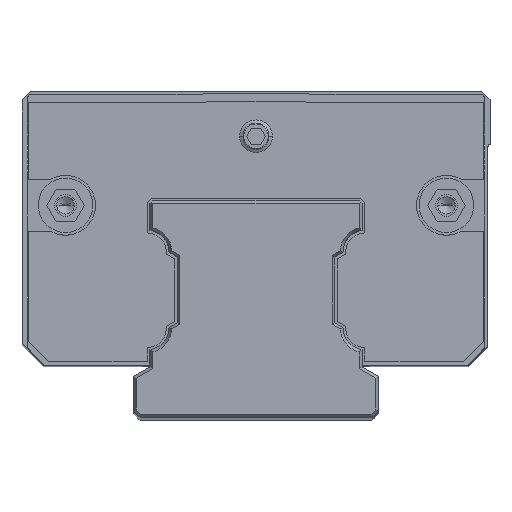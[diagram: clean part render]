
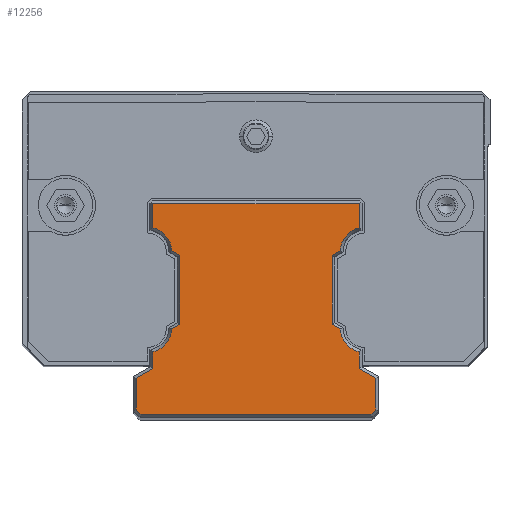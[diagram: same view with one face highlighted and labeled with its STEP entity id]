
A CAD part, top view. The second image highlights one B-rep face of the part: STEP entity #12256.
In plain terms, the highlighted planar face has unit normal (0, 0, 1).
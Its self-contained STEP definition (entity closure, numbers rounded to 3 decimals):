
#11570=DIRECTION('',(-1.,0.,0.));
#11571=VECTOR('',#11570,38.);
#11572=CARTESIAN_POINT('',(19.,15.85,132.05));
#11573=LINE('',#11572,#11571);
#11574=DIRECTION('',(0.,1.,0.));
#11575=VECTOR('',#11574,4.449);
#11576=CARTESIAN_POINT('',(19.,11.401,132.05));
#11577=LINE('',#11576,#11575);
#11578=DIRECTION('',(0.866,0.5,0.));
#11579=VECTOR('',#11578,1.712);
#11580=CARTESIAN_POINT('',(14.,6.339,132.05));
#11581=LINE('',#11580,#11579);
#11582=DIRECTION('',(0.,1.,0.));
#11583=VECTOR('',#11582,12.677);
#11584=CARTESIAN_POINT('',(14.,-6.339,132.05));
#11585=LINE('',#11584,#11583);
#11586=DIRECTION('',(-0.866,0.5,0.));
#11587=VECTOR('',#11586,1.712);
#11588=CARTESIAN_POINT('',(15.483,-7.195,
132.05));
#11589=LINE('',#11588,#11587);
#11590=DIRECTION('',(0.,1.,0.));
#11591=VECTOR('',#11590,3.088);
#11592=CARTESIAN_POINT('',(19.,-14.489,132.05));
#11593=LINE('',#11592,#11591);
#11594=DIRECTION('',(-0.866,0.5,0.));
#11595=VECTOR('',#11594,3.464);
#11596=CARTESIAN_POINT('',(22.,-16.221,132.05));
#11597=LINE('',#11596,#11595);
#11598=DIRECTION('',(0.,1.,0.));
#11599=VECTOR('',#11598,5.872);
#11600=CARTESIAN_POINT('',(22.,-22.093,132.05));
#11601=LINE('',#11600,#11599);
#11602=DIRECTION('',(0.707,0.707,0.));
#11603=VECTOR('',#11602,1.283);
#11604=CARTESIAN_POINT('',(21.093,-23.,132.05));
#11605=LINE('',#11604,#11603);
#11606=DIRECTION('',(1.,0.,0.));
#11607=VECTOR('',#11606,42.186);
#11608=CARTESIAN_POINT('',(-21.093,-23.,132.05));
#11609=LINE('',#11608,#11607);
#11610=DIRECTION('',(0.707,-0.707,0.));
#11611=VECTOR('',#11610,1.283);
#11612=CARTESIAN_POINT('',(-22.,-22.093,132.05));
#11613=LINE('',#11612,#11611);
#11614=DIRECTION('',(0.,-1.,0.));
#11615=VECTOR('',#11614,5.872);
#11616=CARTESIAN_POINT('',(-22.,-16.221,132.05));
#11617=LINE('',#11616,#11615);
#11618=DIRECTION('',(-0.866,-0.5,0.));
#11619=VECTOR('',#11618,3.464);
#11620=CARTESIAN_POINT('',(-19.,-14.489,132.05));
#11621=LINE('',#11620,#11619);
#11622=DIRECTION('',(0.,-1.,0.));
#11623=VECTOR('',#11622,3.088);
#11624=CARTESIAN_POINT('',(-19.,-11.401,
132.05));
#11625=LINE('',#11624,#11623);
#11626=DIRECTION('',(-0.866,-0.5,0.));
#11627=VECTOR('',#11626,1.712);
#11628=CARTESIAN_POINT('',(-14.,-6.339,132.05));
#11629=LINE('',#11628,#11627);
#11630=DIRECTION('',(0.,-1.,0.));
#11631=VECTOR('',#11630,12.677);
#11632=CARTESIAN_POINT('',(-14.,6.339,132.05));
#11633=LINE('',#11632,#11631);
#11634=DIRECTION('',(0.866,-0.5,0.));
#11635=VECTOR('',#11634,1.712);
#11636=CARTESIAN_POINT('',(-15.483,7.195,
132.05));
#11637=LINE('',#11636,#11635);
#11638=DIRECTION('',(0.,-1.,0.));
#11639=VECTOR('',#11638,4.449);
#11640=CARTESIAN_POINT('',(-19.,15.85,132.05));
#11641=LINE('',#11640,#11639);
#11669=CARTESIAN_POINT('',(-20.056,6.944,132.05));
#11670=DIRECTION('',(0.,0.,-1.));
#11671=DIRECTION('',(0.231,0.973,0.));
#11672=AXIS2_PLACEMENT_3D('',#11669,#11670,#11671);
#11729=CARTESIAN_POINT('',(-20.056,-6.944,132.05));
#11730=DIRECTION('',(0.,0.,-1.));
#11731=DIRECTION('',(0.998,-0.055,0.));
#11732=AXIS2_PLACEMENT_3D('',#11729,#11730,#11731);
#11861=CARTESIAN_POINT('',(20.056,-6.944,132.05));
#11862=DIRECTION('',(0.,0.,-1.));
#11863=DIRECTION('',(-0.231,-0.973,0.));
#11864=AXIS2_PLACEMENT_3D('',#11861,#11862,#11863);
#11926=CARTESIAN_POINT('',(20.056,6.944,132.05));
#11927=DIRECTION('',(0.,0.,-1.));
#11928=DIRECTION('',(-0.998,0.055,0.));
#11929=AXIS2_PLACEMENT_3D('',#11926,#11927,#11928);
#12018=CARTESIAN_POINT('',(19.,15.85,132.05));
#12019=CARTESIAN_POINT('',(-19.,15.85,132.05));
#12020=VERTEX_POINT('',#12018);
#12021=VERTEX_POINT('',#12019);
#12026=CARTESIAN_POINT('',(19.,11.401,132.05));
#12027=VERTEX_POINT('',#12026);
#12032=CARTESIAN_POINT('',(14.,6.339,132.05));
#12033=CARTESIAN_POINT('',(15.483,7.195,132.05));
#12034=VERTEX_POINT('',#12032);
#12035=VERTEX_POINT('',#12033);
#12038=CARTESIAN_POINT('',(14.,-6.339,132.05));
#12039=VERTEX_POINT('',#12038);
#12040=CARTESIAN_POINT('',(15.483,-7.195,
132.05));
#12041=VERTEX_POINT('',#12040);
#12048=CARTESIAN_POINT('',(19.,-14.489,132.05));
#12049=CARTESIAN_POINT('',(19.,-11.401,
132.05));
#12050=VERTEX_POINT('',#12048);
#12051=VERTEX_POINT('',#12049);
#12054=CARTESIAN_POINT('',(22.,-16.221,132.05));
#12055=VERTEX_POINT('',#12054);
#12058=CARTESIAN_POINT('',(22.,-22.093,132.05));
#12059=VERTEX_POINT('',#12058);
#12062=CARTESIAN_POINT('',(21.093,-23.,132.05));
#12063=VERTEX_POINT('',#12062);
#12066=CARTESIAN_POINT('',(-21.093,-23.,132.05));
#12067=VERTEX_POINT('',#12066);
#12070=CARTESIAN_POINT('',(-22.,-22.093,132.05));
#12071=VERTEX_POINT('',#12070);
#12074=CARTESIAN_POINT('',(-22.,-16.221,132.05));
#12075=VERTEX_POINT('',#12074);
#12078=CARTESIAN_POINT('',(-19.,-14.489,132.05));
#12079=VERTEX_POINT('',#12078);
#12082=CARTESIAN_POINT('',(-19.,-11.401,
132.05));
#12083=VERTEX_POINT('',#12082);
#12088=CARTESIAN_POINT('',(-14.,-6.339,132.05));
#12089=CARTESIAN_POINT('',(-15.483,-7.195,
132.05));
#12090=VERTEX_POINT('',#12088);
#12091=VERTEX_POINT('',#12089);
#12094=CARTESIAN_POINT('',(-14.,6.339,132.05));
#12095=VERTEX_POINT('',#12094);
#12098=CARTESIAN_POINT('',(-15.483,7.195,
132.05));
#12099=VERTEX_POINT('',#12098);
#12102=CARTESIAN_POINT('',(-19.,11.401,
132.05));
#12103=VERTEX_POINT('',#12102);
#12207=CARTESIAN_POINT('',(0.,0.,132.05));
#12208=DIRECTION('',(0.,0.,1.));
#12209=DIRECTION('',(1.,0.,0.));
#12210=AXIS2_PLACEMENT_3D('',#12207,#12208,#12209);
#12211=PLANE('',#12210);
#12213=ORIENTED_EDGE('',*,*,#12212,.F.);
#12215=ORIENTED_EDGE('',*,*,#12214,.F.);
#12217=ORIENTED_EDGE('',*,*,#12216,.F.);
#12219=ORIENTED_EDGE('',*,*,#12218,.F.);
#12220=ORIENTED_EDGE('',*,*,#12185,.F.);
#12221=ORIENTED_EDGE('',*,*,#12197,.F.);
#12223=ORIENTED_EDGE('',*,*,#12222,.F.);
#12225=ORIENTED_EDGE('',*,*,#12224,.F.);
#12227=ORIENTED_EDGE('',*,*,#12226,.F.);
#12229=ORIENTED_EDGE('',*,*,#12228,.F.);
#12231=ORIENTED_EDGE('',*,*,#12230,.F.);
#12233=ORIENTED_EDGE('',*,*,#12232,.F.);
#12235=ORIENTED_EDGE('',*,*,#12234,.F.);
#12237=ORIENTED_EDGE('',*,*,#12236,.F.);
#12239=ORIENTED_EDGE('',*,*,#12238,.F.);
#12241=ORIENTED_EDGE('',*,*,#12240,.F.);
#12243=ORIENTED_EDGE('',*,*,#12242,.F.);
#12245=ORIENTED_EDGE('',*,*,#12244,.F.);
#12247=ORIENTED_EDGE('',*,*,#12246,.F.);
#12249=ORIENTED_EDGE('',*,*,#12248,.F.);
#12251=ORIENTED_EDGE('',*,*,#12250,.F.);
#12253=ORIENTED_EDGE('',*,*,#12252,.F.);
#12254=EDGE_LOOP('',(#12213,#12215,#12217,#12219,#12220,#12221,#12223,#12225,
#12227,#12229,#12231,#12233,#12235,#12237,#12239,#12241,#12243,#12245,#12247,
#12249,#12251,#12253));
#12255=FACE_OUTER_BOUND('',#12254,.F.);
#11673=CIRCLE('',#11672,4.58);
#11733=CIRCLE('',#11732,4.58);
#11865=CIRCLE('',#11864,4.58);
#11930=CIRCLE('',#11929,4.58);
#12185=EDGE_CURVE('',#12039,#12034,#11585,.T.);
#12197=EDGE_CURVE('',#12041,#12039,#11589,.T.);
#12212=EDGE_CURVE('',#12020,#12021,#11573,.T.);
#12214=EDGE_CURVE('',#12027,#12020,#11577,.T.);
#12216=EDGE_CURVE('',#12035,#12027,#11930,.T.);
#12218=EDGE_CURVE('',#12034,#12035,#11581,.T.);
#12222=EDGE_CURVE('',#12051,#12041,#11865,.T.);
#12224=EDGE_CURVE('',#12050,#12051,#11593,.T.);
#12226=EDGE_CURVE('',#12055,#12050,#11597,.T.);
#12228=EDGE_CURVE('',#12059,#12055,#11601,.T.);
#12230=EDGE_CURVE('',#12063,#12059,#11605,.T.);
#12232=EDGE_CURVE('',#12067,#12063,#11609,.T.);
#12234=EDGE_CURVE('',#12071,#12067,#11613,.T.);
#12236=EDGE_CURVE('',#12075,#12071,#11617,.T.);
#12238=EDGE_CURVE('',#12079,#12075,#11621,.T.);
#12240=EDGE_CURVE('',#12083,#12079,#11625,.T.);
#12242=EDGE_CURVE('',#12091,#12083,#11733,.T.);
#12244=EDGE_CURVE('',#12090,#12091,#11629,.T.);
#12246=EDGE_CURVE('',#12095,#12090,#11633,.T.);
#12248=EDGE_CURVE('',#12099,#12095,#11637,.T.);
#12250=EDGE_CURVE('',#12103,#12099,#11673,.T.);
#12252=EDGE_CURVE('',#12021,#12103,#11641,.T.);
#12256=ADVANCED_FACE('',(#12255),#12211,.T.);
